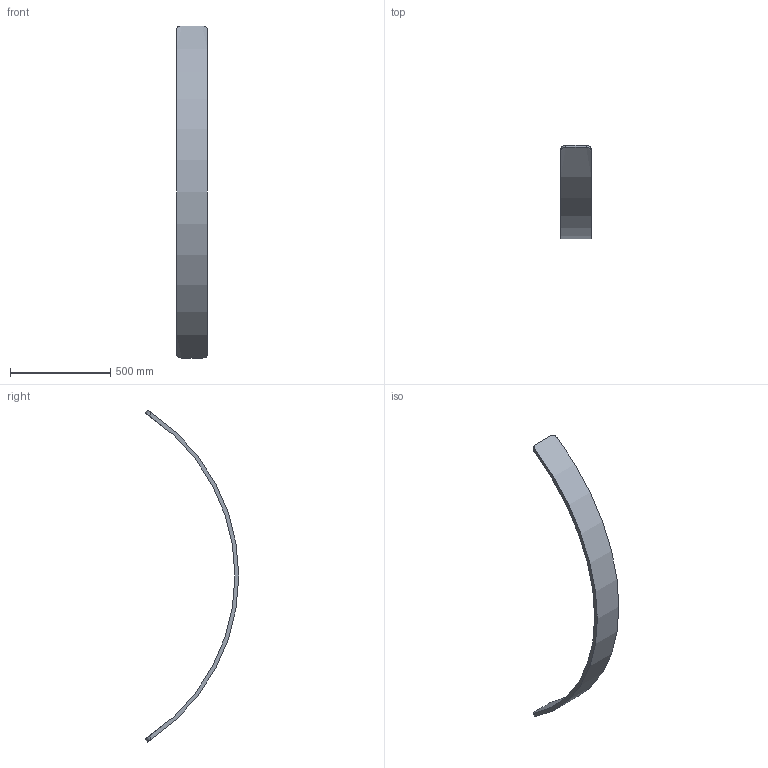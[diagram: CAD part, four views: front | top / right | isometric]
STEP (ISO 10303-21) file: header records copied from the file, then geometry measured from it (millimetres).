
FILE_DESCRIPTION (( 'STEP AP214' ), '1' );
FILE_NAME ('AR PCS 15.STEP', '2025-01-09T19:43:25', ( '' ), ( '' ), 'SwSTEP 2.0', 'SolidWorks 2024', '' );
FILE_SCHEMA (( 'AUTOMOTIVE_DESIGN' ));
Length unit declared in the file: inch
Products named in the file (1): AR PCS 15
Bounding box: 152.4 x 467.45 x 1659.09 mm (x, y, z)
Volume: 5673513.8 mm3; surface area: 675213.8 mm2
Topology: 1 solids, 1 shells, 10 faces, 24 edges, 16 vertices
Faces by surface type: cylinder 6, plane 4
Entity records: 543 total; most frequent: CARTESIAN_POINT 291, ORIENTED_EDGE 48, DIRECTION 42, EDGE_CURVE 24, VERTEX_POINT 16, AXIS2_PLACEMENT_3D 15, VECTOR 12, LINE 12
